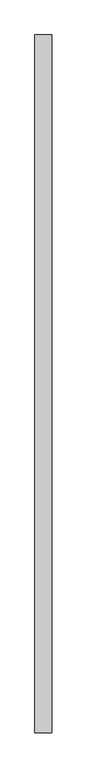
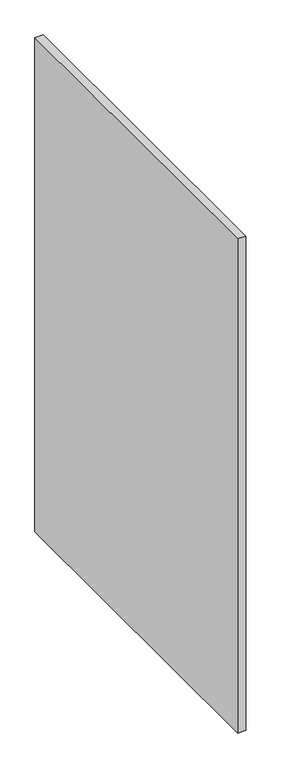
"""IFC4 building model written with IfcOpenShell, lengths in millimetres: furniture geometry, Divisoria_Lateral Fechada : Divisoria_Lateral Fechada_130x180."""

from ifc_helpers import new_model, si_unit, frame, origin, place, context, project, spatial, polyline, outline, extrude, source, transform, mapped, element, save


def furniture_d06e8352(model_context):
    return source(origin(), model_context, "Body", "SweptSolid", [
        extrude(outline(polyline([(59.7003264, 50.0), (59.7003264, -1192.8043979), (29.7003264, -1192.8043979), (29.7003264, 50.0), (59.7003264, 50.0)])), frame((0.0, 0.0, 50.0), z_axis=(0.0, 0.0, 1.0), x_axis=(1.0, 0.0, 0.0)), (0.0, 0.0, 1.0), 1850.0),
    ])


if __name__ == "__main__":
    model = new_model("IFC4")
    model_context = context("Model", 3, world=origin())
    ifc_project = project(units=[si_unit("LENGTHUNIT", "METRE", prefix="MILLI")], contexts=[model_context])
    site = spatial("IfcSite", under=ifc_project)
    building = spatial("IfcBuilding", under=site)
    placement = place(None, origin())
    furniture_shape = furniture_d06e8352(model_context)
    element("IfcFurniture", 1, ObjectType="Divisoria_Lateral Fechada : Divisoria_Lateral Fechada_130x180", at=placement, inside=building, context=model_context, shape_type="MappedRepresentation", body=[
        mapped(furniture_shape, transform((0.0, 0.0, 0.0), x_axis=(1.0, 0.0, 0.0), y_axis=(0.0, 1.0, 0.0), z_axis=(0.0, 0.0, 1.0))),
    ])
    save(model, "model.ifc")
